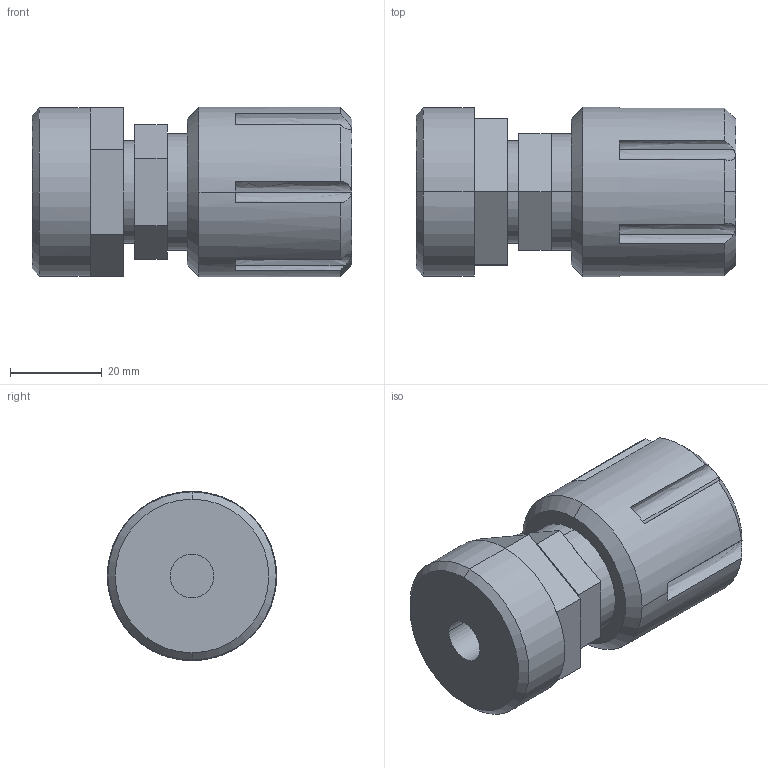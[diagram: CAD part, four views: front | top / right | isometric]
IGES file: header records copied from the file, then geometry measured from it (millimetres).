
Start section: SolidWorks IGES file using analytic representation for surfaces
Global section: file name: S:\Product Visuals\REVISED-30L-TOP-MOUNT-FITTINGS\IGS\top-straight-outlet-only\flaretek\12-flaretek-with-top-mount-adapter.IGS; native system: SolidWorks 2012; preprocessor: SolidWorks 2012; author: rachel.dressel; date: 121127.142834; units: inch
Bounding box: 69.59 x 36.83 x 36.83 mm (x, y, z)
Volume: 59280.2 mm3; surface area: 11828.9 mm2
Topology: 1 solids, 1 shells, 71 faces, 172 edges, 108 vertices
Faces by surface type: plane 43, revolution 28
